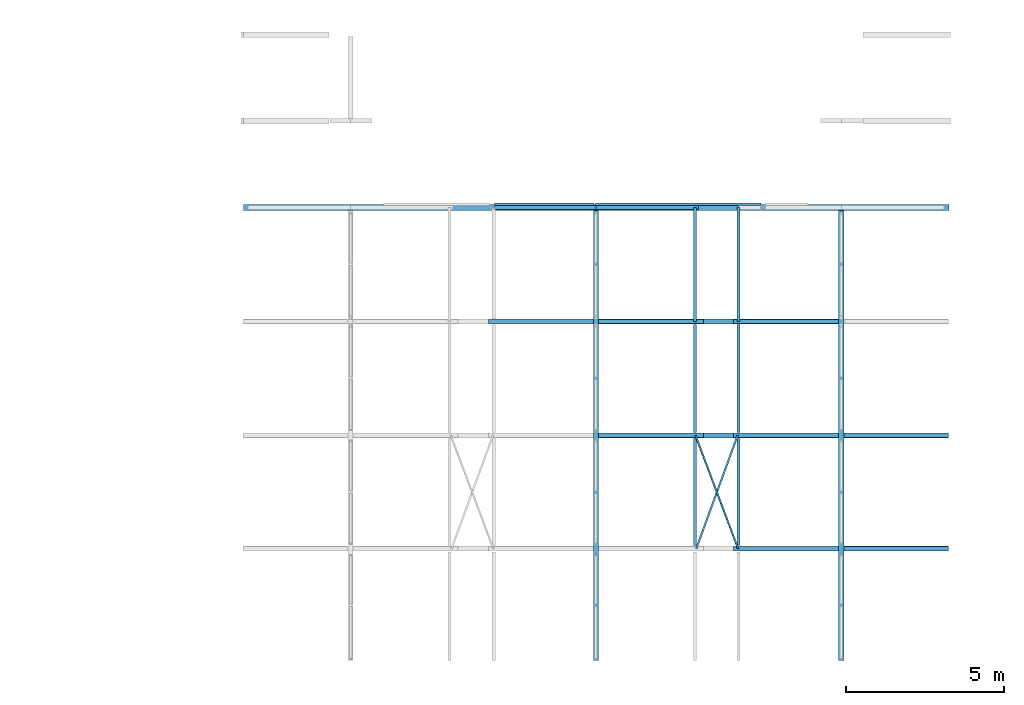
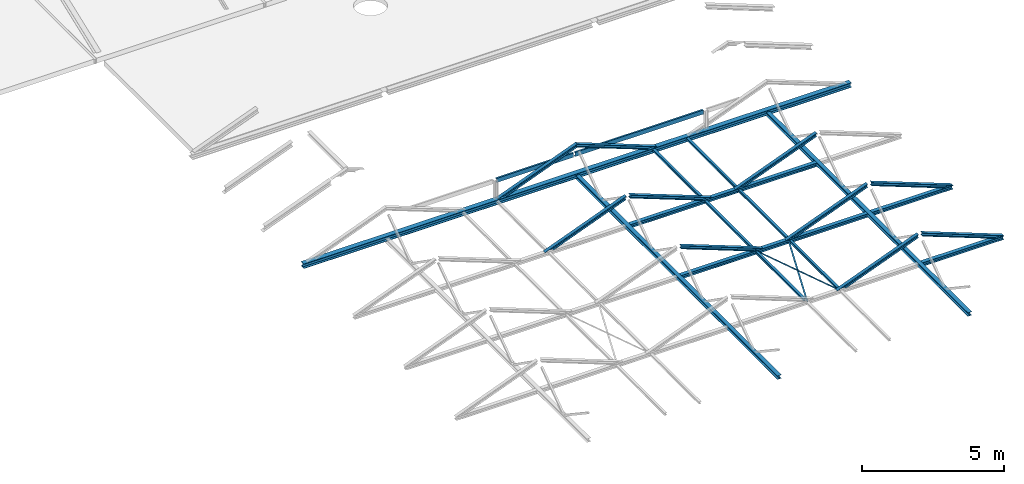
# One storey, part 3 of 10: 27 beams.
"""IFC2X3 building model written with IfcOpenShell, lengths in millimetres."""

from ifc_helpers import new_model, entity, si_unit, converted_unit, derived_unit, direction, frame, frame_2d, origin, place, context, subcontext, project, spatial, polyline, i_section, outline, extrude, clip, halfspace, bounded_halfspace, material, type_object, element, save


model = new_model("IFC2X3")

# Units and contexts
model_context = context("Model", 3, precision=0.01, world=origin(), true_north=direction((6.123031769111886e-17, 1.0)))
body_context = subcontext(model_context, "Body", "Model", "MODEL_VIEW")
ifc_project = project(units=[si_unit("LENGTHUNIT", "METRE", prefix="MILLI"), si_unit("AREAUNIT", "SQUARE_METRE", prefix="MILLI"), si_unit("VOLUMEUNIT", "CUBIC_METRE"), converted_unit("PLANEANGLEUNIT", "DEGREE", entity("IfcPlaneAngleMeasure", 0.017453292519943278), si_unit("PLANEANGLEUNIT", "RADIAN"), dimensions=[0, 0, 0, 0, 0, 0, 0]), si_unit("MASSUNIT", "GRAM", prefix="KILO"), derived_unit("MASSDENSITYUNIT", [(si_unit("MASSUNIT", "GRAM", prefix="KILO"), 1), (si_unit("LENGTHUNIT", "METRE"), -3)]), derived_unit("IONCONCENTRATIONUNIT", [(si_unit("MASSUNIT", "GRAM", prefix="KILO"), 1), (si_unit("LENGTHUNIT", "METRE"), -3)]), derived_unit("MOMENTOFINERTIAUNIT", [(si_unit("LENGTHUNIT", "METRE"), 4)]), si_unit("TIMEUNIT", "SECOND"), si_unit("FREQUENCYUNIT", "HERTZ"), si_unit("THERMODYNAMICTEMPERATUREUNIT", "DEGREE_CELSIUS"), derived_unit("THERMALTRANSMITTANCEUNIT", [(si_unit("MASSUNIT", "GRAM", prefix="KILO"), 1), (si_unit("THERMODYNAMICTEMPERATUREUNIT", "KELVIN"), -1), (si_unit("TIMEUNIT", "SECOND"), -3)]), derived_unit("THERMALCONDUCTANCEUNIT", [(si_unit("MASSUNIT", "GRAM", prefix="KILO"), 1), (si_unit("THERMODYNAMICTEMPERATUREUNIT", "KELVIN"), -1), (si_unit("TIMEUNIT", "SECOND"), -3), (si_unit("LENGTHUNIT", "METRE"), 1)]), derived_unit("VOLUMETRICFLOWRATEUNIT", [(si_unit("LENGTHUNIT", "METRE", prefix="DECI"), 3), (si_unit("TIMEUNIT", "SECOND"), -1)]), derived_unit("MASSFLOWRATEUNIT", [(si_unit("MASSUNIT", "GRAM", prefix="KILO"), 1), (si_unit("TIMEUNIT", "SECOND"), -1)]), derived_unit("ROTATIONALFREQUENCYUNIT", [(si_unit("TIMEUNIT", "SECOND"), -1)]), si_unit("ELECTRICCURRENTUNIT", "AMPERE"), si_unit("ELECTRICVOLTAGEUNIT", "VOLT"), si_unit("POWERUNIT", "WATT"), si_unit("FORCEUNIT", "NEWTON", prefix="KILO"), si_unit("ILLUMINANCEUNIT", "LUX"), si_unit("LUMINOUSFLUXUNIT", "LUMEN"), si_unit("LUMINOUSINTENSITYUNIT", "CANDELA"), si_unit("ENERGYUNIT", "JOULE"), derived_unit("USERDEFINED", [(si_unit("MASSUNIT", "GRAM", prefix="KILO"), -1), (si_unit("LENGTHUNIT", "METRE"), -2), (si_unit("TIMEUNIT", "SECOND"), 3), (si_unit("LUMINOUSFLUXUNIT", "LUMEN"), 1)]), derived_unit("USERDEFINED", [(si_unit("MASSUNIT", "GRAM", prefix="KILO"), 1), (si_unit("TIMEUNIT", "SECOND"), -3), (si_unit("LENGTHUNIT", "METRE"), 3), (si_unit("ELECTRICCURRENTUNIT", "AMPERE"), -2)]), derived_unit("SOUNDPOWERUNIT", [(si_unit("MASSUNIT", "GRAM", prefix="KILO"), 1), (si_unit("TIMEUNIT", "SECOND"), -3), (si_unit("LENGTHUNIT", "METRE"), 2)]), derived_unit("SOUNDPRESSUREUNIT", [(si_unit("MASSUNIT", "GRAM", prefix="KILO"), 1), (si_unit("LENGTHUNIT", "METRE"), -1), (si_unit("TIMEUNIT", "SECOND"), -2)]), derived_unit("LINEARVELOCITYUNIT", [(si_unit("LENGTHUNIT", "METRE"), 1), (si_unit("TIMEUNIT", "SECOND"), -1)]), si_unit("PRESSUREUNIT", "PASCAL"), derived_unit("USERDEFINED", [(si_unit("MASSUNIT", "GRAM", prefix="KILO"), 1), (si_unit("LENGTHUNIT", "METRE"), -2), (si_unit("TIMEUNIT", "SECOND"), -2)]), derived_unit("LINEARFORCEUNIT", [(si_unit("MASSUNIT", "GRAM", prefix="KILO"), 1), (si_unit("TIMEUNIT", "SECOND"), -2)]), derived_unit("PLANARFORCEUNIT", [(si_unit("MASSUNIT", "GRAM", prefix="KILO"), 1), (si_unit("LENGTHUNIT", "METRE"), -1), (si_unit("TIMEUNIT", "SECOND"), -2)]), derived_unit("SPECIFICHEATCAPACITYUNIT", [(si_unit("THERMODYNAMICTEMPERATUREUNIT", "KELVIN"), -1), (si_unit("LENGTHUNIT", "METRE"), 2), (si_unit("TIMEUNIT", "SECOND"), -2)]), derived_unit("HEATFLUXDENSITYUNIT", [(si_unit("MASSUNIT", "GRAM", prefix="KILO"), 1), (si_unit("TIMEUNIT", "SECOND"), -3)]), derived_unit("HEATINGVALUEUNIT", [(si_unit("LENGTHUNIT", "METRE"), 2), (si_unit("TIMEUNIT", "SECOND"), -2)]), derived_unit("VAPORPERMEABILITYUNIT", [(si_unit("LENGTHUNIT", "METRE"), -1), (si_unit("TIMEUNIT", "SECOND"), 1)]), derived_unit("DYNAMICVISCOSITYUNIT", [(si_unit("MASSUNIT", "GRAM", prefix="KILO"), 1), (si_unit("TIMEUNIT", "SECOND"), -1), (si_unit("LENGTHUNIT", "METRE"), -1)]), derived_unit("THERMALEXPANSIONCOEFFICIENTUNIT", [(si_unit("THERMODYNAMICTEMPERATUREUNIT", "KELVIN"), -1)]), derived_unit("MODULUSOFELASTICITYUNIT", [(si_unit("MASSUNIT", "GRAM", prefix="KILO"), 1), (si_unit("LENGTHUNIT", "METRE"), -1), (si_unit("TIMEUNIT", "SECOND"), -2)]), derived_unit("ISOTHERMALMOISTURECAPACITYUNIT", [(si_unit("MASSUNIT", "GRAM", prefix="KILO"), -1), (si_unit("LENGTHUNIT", "METRE"), 3)]), derived_unit("MOISTUREDIFFUSIVITYUNIT", [(si_unit("TIMEUNIT", "SECOND"), -1), (si_unit("LENGTHUNIT", "METRE"), 2)]), derived_unit("MASSPERLENGTHUNIT", [(si_unit("MASSUNIT", "GRAM", prefix="KILO"), 1), (si_unit("LENGTHUNIT", "METRE"), -1)]), derived_unit("THERMALRESISTANCEUNIT", [(si_unit("MASSUNIT", "GRAM", prefix="KILO"), -1), (si_unit("TIMEUNIT", "SECOND"), 3), (si_unit("THERMODYNAMICTEMPERATUREUNIT", "KELVIN"), 1)]), derived_unit("ACCELERATIONUNIT", [(si_unit("LENGTHUNIT", "METRE"), 1), (si_unit("TIMEUNIT", "SECOND"), -2)]), derived_unit("ANGULARVELOCITYUNIT", [(si_unit("TIMEUNIT", "SECOND"), -1), (si_unit("PLANEANGLEUNIT", "RADIAN"), 1)]), derived_unit("LINEARSTIFFNESSUNIT", [(si_unit("MASSUNIT", "GRAM", prefix="KILO"), 1), (si_unit("TIMEUNIT", "SECOND"), -2)]), derived_unit("WARPINGCONSTANTUNIT", [(si_unit("LENGTHUNIT", "METRE"), 6)]), derived_unit("LINEARMOMENTUNIT", [(si_unit("MASSUNIT", "GRAM", prefix="KILO"), 1), (si_unit("LENGTHUNIT", "METRE"), 1), (si_unit("TIMEUNIT", "SECOND"), -2)]), derived_unit("TORQUEUNIT", [(si_unit("MASSUNIT", "GRAM", prefix="KILO"), 1), (si_unit("LENGTHUNIT", "METRE"), 2), (si_unit("TIMEUNIT", "SECOND"), -2)])], contexts=[model_context])

# Site, building, storey
site_placement = place(None, origin())
site = spatial("IfcSite", under=ifc_project, at=site_placement, Name="Default", CompositionType="ELEMENT")
building_placement = place(site_placement, origin())
building = spatial("IfcBuilding", under=site, at=building_placement, CompositionType="ELEMENT")
storey_placement = place(building_placement, frame((0.0, 0.0, 10840.0)))
storey = spatial("IfcBuildingStorey", under=building, at=storey_placement, Name="V3 dakvloer", CompositionType="ELEMENT", Elevation=10839.99999999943)

# Beams
ifc_material_1 = material(Name="Metal - Steel - S235 JRG2 (standaard)")
beam_type_1 = type_object("IfcBeamType", Name="btl_staal - HE(a-b-m):HEA160.", PredefinedType="NOTDEFINED")
beam_1_placement = place(storey_placement, frame((18054.986142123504, 13894.60501307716, -4.289062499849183)))
element("IfcBeam", 1, at=beam_1_placement, inside=storey, type_object=beam_type_1, material=ifc_material_1, Name="btl_staal - HE(a-b-m):HEA160.", ObjectType="btl_staal - HE(a-b-m):HEA160.", context=body_context, shape_type="SweptSolid", body=[
    extrude(i_section(OverallWidth=160.00000000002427, OverallDepth=152.0000000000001, WebThickness=5.999999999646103, FlangeThickness=9.000000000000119, at=frame_2d((2.1671553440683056e-12, 3.254285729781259e-12), x_axis=(0.0, 1.0))), frame((0.0, 0.0, -76.0), z_axis=(1.0, 0.0, 0.0), x_axis=(0.0, 0.0, -1.0)), (0.0, 0.0, 1.0), 7589.093750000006),
])
beam_2_placement = place(storey_placement, frame((18054.986142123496, 10294.605013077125, -4.289062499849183)))
element("IfcBeam", 2, at=beam_2_placement, inside=storey, type_object=beam_type_1, material=ifc_material_1, Name="btl_staal - HE(a-b-m):HEA160.", ObjectType="btl_staal - HE(a-b-m):HEA160.", context=body_context, shape_type="SweptSolid", body=[
    extrude(i_section(OverallWidth=160.00000000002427, OverallDepth=152.0000000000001, WebThickness=5.999999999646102, FlangeThickness=9.000000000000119, at=frame_2d((2.1671553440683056e-12, 1.0800249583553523e-12), x_axis=(0.0, 1.0))), frame((0.0, 0.0, -76.0), z_axis=(1.0, 0.0, 0.0), x_axis=(0.0, 0.0, -1.0)), (0.0, 0.0, 1.0), 7589.093750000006),
])
beam_3_placement = place(storey_placement, frame((25804.079892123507, 10294.605013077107, -4.289062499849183)))
element("IfcBeam", 3, at=beam_3_placement, inside=storey, type_object=beam_type_1, material=ifc_material_1, Name="btl_staal - HE(a-b-m):HEA160.", ObjectType="btl_staal - HE(a-b-m):HEA160.", context=body_context, shape_type="SweptSolid", body=[
    extrude(i_section(OverallWidth=160.00000000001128, OverallDepth=152.0000000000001, WebThickness=5.999999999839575, FlangeThickness=9.000000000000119, at=frame_2d((2.1671553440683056e-12, -1.0871303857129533e-12), x_axis=(0.0, 1.0))), frame((0.0, 0.0, -76.0), z_axis=(1.0, 0.0, 0.0), x_axis=(0.0, 0.0, -1.0)), (0.0, 0.0, 1.0), 3302.9062500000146),
])
beam_4_placement = place(storey_placement, frame((25804.0798921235, 6719.605013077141, -4.289062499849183)))
element("IfcBeam", 4, at=beam_4_placement, inside=storey, type_object=beam_type_1, material=ifc_material_1, Name="btl_staal - HE(a-b-m):HEA160.", ObjectType="btl_staal - HE(a-b-m):HEA160.", context=body_context, shape_type="SweptSolid", body=[
    extrude(i_section(OverallWidth=160.00000000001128, OverallDepth=152.0000000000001, WebThickness=5.999999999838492, FlangeThickness=9.000000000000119, at=frame_2d((2.1671553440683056e-12, 0.0), x_axis=(0.0, 1.0))), frame((0.0, 0.0, -76.0), z_axis=(1.0, 0.0, 0.0), x_axis=(0.0, 0.0, -1.0)), (0.0, 0.0, 1.0), 3302.9062500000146),
])
beam_5_placement = place(storey_placement, frame((17974.986142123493, 17394.605013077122, -4.289062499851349), z_axis=(0.0, 0.0, 1.0), x_axis=(0.0, -1.0, 0.0)))
element("IfcBeam", 5, at=beam_5_placement, inside=storey, type_object=beam_type_1, material=ifc_material_1, Name="btl_staal - HE(a-b-m):HEA160.", ObjectType="btl_staal - HE(a-b-m):HEA160.", context=body_context, shape_type="SweptSolid", body=[
    extrude(i_section(OverallWidth=160.00000000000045, OverallDepth=151.99999999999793, WebThickness=6.000000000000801, FlangeThickness=9.000000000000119, at=frame_2d((-1.0800249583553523e-12, 3.247180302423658e-12), x_axis=(0.0, 1.0))), frame((0.0, 0.0, -76.0), z_axis=(1.0, 0.0, 0.0), x_axis=(0.0, 0.0, -1.0)), (0.0, 0.0, 1.0), 14214.119743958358),
])
beam_6_placement = place(storey_placement, frame((25724.0798921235, 17394.605013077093, -4.289062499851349), z_axis=(0.0, 0.0, 1.0), x_axis=(0.0, -1.0, 0.0)))
element("IfcBeam", 6, at=beam_6_placement, inside=storey, type_object=beam_type_1, material=ifc_material_1, Name="btl_staal - HE(a-b-m):HEA160.", ObjectType="btl_staal - HE(a-b-m):HEA160.", context=body_context, shape_type="SweptSolid", body=[
    extrude(i_section(OverallWidth=159.99999999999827, OverallDepth=151.99999999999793, WebThickness=5.999999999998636, FlangeThickness=9.000000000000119, at=frame_2d((-1.0800249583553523e-12, 2.1671553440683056e-12), x_axis=(0.0, 1.0))), frame((0.0, 0.0, -76.0), z_axis=(1.0, 0.0, 0.0), x_axis=(0.0, 0.0, -1.0)), (0.0, 0.0, 1.0), 14214.119743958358),
])
ifc_material_2 = material(Name="Metal - Steel - S355 JR (standaard-geintegreerde liggers)")
beam_type_2 = type_object("IfcBeamType", Name="btl_staal - HE(a-b-m):HEB200 (S355)", PredefinedType="NOTDEFINED")
beam_7_placement = place(storey_placement, frame((6843.000781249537, 17494.605013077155, 57.95312500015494)))
element("IfcBeam", 7, at=beam_7_placement, inside=storey, type_object=beam_type_2, material=ifc_material_2, Name="btl_staal - HE(a-b-m):HEB200 (S355)", ObjectType="btl_staal - HE(a-b-m):HEB200 (S355)", context=body_context, shape_type="SweptSolid", body=[
    extrude(i_section(OverallWidth=200.00000000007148, OverallDepth=200.0, WebThickness=8.999999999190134, FlangeThickness=15.000000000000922, at=frame_2d((1.0871303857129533e-12, 1.0871303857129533e-12), x_axis=(0.0, 1.0))), frame((0.0, 0.0, -100.0), z_axis=(1.0, 0.0, 0.0), x_axis=(0.0, 0.0, -1.0)), (0.0, 0.0, 1.0), 22278.985360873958),
])
beam_type_3 = type_object("IfcBeamType", Name="btl_staal - UNP:UNP180.", PredefinedType="NOTDEFINED")
beam_8_placement = place(storey_placement, frame((17962.683976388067, 17583.90501307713, 860.0)))
element("IfcBeam", 8, at=beam_8_placement, inside=storey, type_object=beam_type_3, material=ifc_material_1, Name="btl_staal - UNP:UNP180.", ObjectType="btl_staal - UNP:UNP180.", context=body_context, shape_type="SweptSolid", body=[
    extrude(outline(polyline([(-90.0, -37.0), (90.0, -37.0), (90.0, 33.0), (79.0, 33.0), (69.18016469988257, -29.0), (-69.18016469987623, -29.0), (-79.0, 33.0), (-90.0, 33.0), (-90.0, -37.0)])), frame((0.0, 17.70000000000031, -90.0), z_axis=(1.0, 0.0, 0.0), x_axis=(0.0, 0.0, -1.0)), (0.0, 0.0, 1.0), 5220.802630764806),
])
beam_9_placement = place(storey_placement, frame((14696.977101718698, 17583.90501307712, 860.0)))
element("IfcBeam", 9, at=beam_9_placement, inside=storey, type_object=beam_type_3, material=ifc_material_1, Name="btl_staal - UNP:UNP180.", ObjectType="btl_staal - UNP:UNP180.", context=body_context, shape_type="SweptSolid", body=[
    extrude(outline(polyline([(-90.0, -37.0), (90.0, -37.0), (90.0, 33.0), (79.0, 33.0), (69.18016469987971, -29.0), (-69.18016469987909, -29.0), (-79.0, 33.0), (-90.0, 33.0), (-90.0, -37.0)])), frame((69.38600711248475, 17.700000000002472, -90.0), z_axis=(1.0, 0.0, 0.0), x_axis=(0.0, 0.0, -1.0)), (0.0, 0.0, 1.0), 3142.123033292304),
])
beam_type_4 = type_object("IfcBeamType", Name="btl_staal - HE(a-b-m):HEA140", PredefinedType="NOTDEFINED")
beam_10_placement = place(storey_placement, frame((14589.859548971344, 17494.60501307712, 1.7669188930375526), z_axis=(-0.3581842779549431, 0.0, 0.9336509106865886), x_axis=(0.9336509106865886, 0.0, 0.3581842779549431)))
element("IfcBeam", 10, at=beam_10_placement, inside=storey, type_object=beam_type_4, material=ifc_material_1, Name="btl_staal - HE(a-b-m):HEA140", ObjectType="btl_staal - HE(a-b-m):HEA140", context=body_context, shape_type="SweptSolid", body=[
    clip(clip(clip(extrude(i_section(OverallWidth=140.00000000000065, OverallDepth=133.00000000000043, WebThickness=5.500000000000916, FlangeThickness=8.500000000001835, at=frame_2d((0.0, 5.4143356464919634e-12), x_axis=(0.0, 1.0))), frame((184.9177250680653, 0.0, -66.50000000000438), z_axis=(1.0, 0.0, 0.0), x_axis=(0.0, 0.0, -1.0)), (0.0, 0.0, 1.0), 3440.767753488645), halfspace(frame((3625.685478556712, 0.0, 0.0), z_axis=(0.9336508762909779, 0.0, -0.3581843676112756), x_axis=(0.0, -1.0, 0.0)), False)), bounded_halfspace(frame((184.91772506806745, 3625.6854785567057, -10.76249764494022), z_axis=(-0.3581842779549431, 0.0, -0.9336509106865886), x_axis=(0.0, -1.0, 0.0)), False, frame((184.9177250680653, 0.0, -66.50000000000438), z_axis=(1.0, 0.0, 0.0), x_axis=(0.0, 0.0, -1.0)), polyline([(-55.73750235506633, -2.749999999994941), (-55.73750235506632, 2.7500000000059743), (58.0, 2.7500000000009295), (58.0, 70.0), (66.4999999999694, 70.0), (66.49999999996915, -70.0), (58.0, -70.0), (58.0, -2.749999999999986), (-55.73750235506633, -2.749999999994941)]))), bounded_halfspace(frame((189.04663171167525, 3625.6854785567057, 0.0), z_axis=(-0.9336509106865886, 0.0, 0.3581842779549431), x_axis=(0.0, -1.0, 0.0)), False, frame((184.9177250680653, 0.0, -66.50000000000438), z_axis=(1.0, 0.0, 0.0), x_axis=(0.0, 0.0, -1.0)), polyline([(-55.73750235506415, 2.7500000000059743), (-55.73750235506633, -2.749999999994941), (-58.0, -2.749999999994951), (-58.0, -70.0), (-66.5000000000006, -70.0), (-66.50000000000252, 70.0), (-58.0, 70.0), (-58.0, 2.750000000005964), (-55.73750235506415, 2.7500000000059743)]))),
])
beam_11_placement = place(storey_placement, frame((17974.984097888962, 17494.605013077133, 1300.4304541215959), z_axis=(0.3581844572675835, 0.0, 0.9336508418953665), x_axis=(0.9336508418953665, 0.0, -0.3581844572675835)))
element("IfcBeam", 11, at=beam_11_placement, inside=storey, type_object=beam_type_4, material=ifc_material_1, Name="btl_staal - HE(a-b-m):HEA140", ObjectType="btl_staal - HE(a-b-m):HEA140", context=body_context, shape_type="SweptSolid", body=[
    clip(clip(extrude(i_section(OverallWidth=140.00000000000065, OverallDepth=132.99999999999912, WebThickness=5.500000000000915, FlangeThickness=8.500000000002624, at=frame_2d((2.4158453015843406e-12, 1.0800249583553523e-12), x_axis=(0.0, 1.0))), frame((0.0, 0.0, -66.50000000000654), z_axis=(1.0, 0.0, 0.0), x_axis=(0.0, 0.0, -1.0)), (0.0, 0.0, 1.0), 3468.8197768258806), halfspace(frame((3122.139290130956, 3685.680729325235, -133.0), z_axis=(0.35818445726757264, 0.0, -0.9336508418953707), x_axis=(0.0, -1.0, 0.0)), False)), halfspace(frame((0.0, 0.0, 0.0), z_axis=(-0.933650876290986, 0.0, -0.35818436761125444), x_axis=(0.0, 1.0, 0.0)), False)),
])
beam_12_placement = place(storey_placement, frame((14585.411775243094, 13894.605013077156, 0.06058239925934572), z_axis=(-0.358184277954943, 0.0, 0.9336509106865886), x_axis=(0.9336509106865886, 0.0, 0.358184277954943)))
element("IfcBeam", 12, at=beam_12_placement, inside=storey, type_object=beam_type_4, material=ifc_material_1, Name="btl_staal - HE(a-b-m):HEA140", ObjectType="btl_staal - HE(a-b-m):HEA140", context=body_context, shape_type="SweptSolid", body=[
    clip(clip(extrude(outline(polyline([(-70.0, -58.0), (-70.0, -66.50000000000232), (70.0, -66.4999999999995), (70.0, -58.0), (2.7500000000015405, -58.0), (2.7500000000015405, 58.0), (70.0, 58.0), (70.0, 66.4999999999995), (-70.0, 66.4999999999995), (-70.0, 58.0), (-2.749999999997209, 58.0), (-2.7499999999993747, -58.0), (-70.0, -58.0)])), frame((0.0, 0.0, -66.50000000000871), z_axis=(-1.0, 0.0, 0.0), x_axis=(0.0, 1.0, 0.0)), (0.0, 0.0, -1.0), 3544.766388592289), halfspace(frame((0.0, 3565.0, -4.658748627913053), z_axis=(-0.358184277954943, 0.0, -0.9336509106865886), x_axis=(0.0, -1.0, 0.0)), False)), halfspace(frame((3565.001969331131, -3565.0, 52.74650381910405), z_axis=(0.9336509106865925, 0.0, -0.3581842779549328), x_axis=(0.0, 1.0, 0.0)), False)),
])
beam_13_placement = place(storey_placement, frame((18047.86281122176, 13894.60501307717, 1272.4713700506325), z_axis=(0.3581844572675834, 0.0, 0.9336508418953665), x_axis=(0.9336508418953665, 0.0, -0.3581844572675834)))
element("IfcBeam", 13, at=beam_13_placement, inside=storey, type_object=beam_type_4, material=ifc_material_1, Name="btl_staal - HE(a-b-m):HEA140", ObjectType="btl_staal - HE(a-b-m):HEA140", context=body_context, shape_type="SweptSolid", body=[
    clip(clip(extrude(i_section(OverallWidth=140.00000000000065, OverallDepth=132.99999999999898, WebThickness=5.500000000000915, FlangeThickness=8.500000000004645, at=frame_2d((-1.3997691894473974e-12, 1.0800249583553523e-12), x_axis=(0.0, 1.0))), frame((7.629544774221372, 0.0, -66.50000000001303), z_axis=(1.0, 0.0, 0.0), x_axis=(0.0, 0.0, -1.0)), (0.0, 0.0, 1.0), 3556.9037749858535), halfspace(frame((3217.8528330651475, 3612.386801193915, -133.0), z_axis=(0.3581844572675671, 0.0, -0.9336508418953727), x_axis=(0.0, -1.0, 0.0)), False)), halfspace(frame((0.0, 3612.386801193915, 19.887325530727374), z_axis=(-0.9336508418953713, 0.0, -0.358184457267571), x_axis=(0.0, -1.0, 0.0)), False)),
])
beam_14_placement = place(storey_placement, frame((22328.136974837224, 13894.605013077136, -2.415790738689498), z_axis=(-0.3581840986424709, 0.0, 0.9336509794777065), x_axis=(0.9336509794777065, 0.0, 0.3581840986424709)))
element("IfcBeam", 14, at=beam_14_placement, inside=storey, type_object=beam_type_4, material=ifc_material_1, Name="btl_staal - HE(a-b-m):HEA140", ObjectType="btl_staal - HE(a-b-m):HEA140", context=body_context, shape_type="SweptSolid", body=[
    clip(clip(extrude(outline(polyline([(-70.0, -58.0), (-70.0, -66.50000000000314), (70.0, -66.50000000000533), (70.0, -58.0), (2.7499999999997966, -58.0), (2.7500000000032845, 58.0), (70.0, 58.0), (70.0, 66.49999999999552), (-70.0, 66.49999999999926), (-70.0, 58.0), (-2.7499999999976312, 58.0), (-2.7500000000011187, -58.0), (-70.0, -58.0)])), frame((0.0, 0.0, -66.50000000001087), z_axis=(-1.0, 0.0, 0.0), x_axis=(0.0, 1.0, 0.0)), (0.0, 0.0, -1.0), 3551.587252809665), halfspace(frame((341.4509716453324, -3632.181574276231, -133.0), z_axis=(-0.3581840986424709, 0.0, -0.9336509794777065), x_axis=(0.0, 1.0, 0.0)), False)), halfspace(frame((3551.5872528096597, -3632.1815742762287, 0.0), z_axis=(0.9336509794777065, 0.0, -0.3581840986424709), x_axis=(0.0, 1.0, 0.0)), False)),
])
beam_15_placement = place(storey_placement, frame((18047.862811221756, 10294.605013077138, 1272.4713700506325), z_axis=(0.3581844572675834, 0.0, 0.9336508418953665), x_axis=(0.9336508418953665, 0.0, -0.3581844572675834)))
element("IfcBeam", 15, at=beam_15_placement, inside=storey, type_object=beam_type_4, material=ifc_material_1, Name="btl_staal - HE(a-b-m):HEA140", ObjectType="btl_staal - HE(a-b-m):HEA140", context=body_context, shape_type="SweptSolid", body=[
    clip(clip(extrude(i_section(OverallWidth=140.00000000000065, OverallDepth=132.99999999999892, WebThickness=5.500000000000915, FlangeThickness=8.500000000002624, at=frame_2d((0.0, 1.0800249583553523e-12), x_axis=(0.0, 1.0))), frame((7.629544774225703, 0.0, -66.50000000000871), z_axis=(1.0, 0.0, 0.0), x_axis=(0.0, 0.0, -1.0)), (0.0, 0.0, 1.0), 3556.9037749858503), halfspace(frame((3217.8528330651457, 3612.386801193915, -133.0), z_axis=(0.35818445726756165, 0.0, -0.9336508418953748), x_axis=(0.0, -1.0, 0.0)), False)), halfspace(frame((0.0, 3612.386801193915, 19.887325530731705), z_axis=(-0.9336508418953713, 0.0, -0.3581844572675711), x_axis=(0.0, -1.0, 0.0)), False)),
])
beam_16_placement = place(storey_placement, frame((22328.136974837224, 10294.605013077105, -2.415790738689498), z_axis=(-0.3581840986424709, 0.0, 0.9336509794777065), x_axis=(0.9336509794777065, 0.0, 0.3581840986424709)))
element("IfcBeam", 16, at=beam_16_placement, inside=storey, type_object=beam_type_4, material=ifc_material_1, Name="btl_staal - HE(a-b-m):HEA140", ObjectType="btl_staal - HE(a-b-m):HEA140", context=body_context, shape_type="SweptSolid", body=[
    clip(clip(extrude(outline(polyline([(-70.0, -58.0), (-70.0, -66.49999999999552), (70.0, -66.50000000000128), (70.0, -58.0), (2.7499999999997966, -58.0), (2.7500000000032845, 58.0), (70.0, 58.0), (70.0, 66.50000000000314), (-70.0, 66.50000000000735), (-70.0, 58.0), (-2.7499999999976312, 58.0), (-2.7500000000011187, -58.0), (-70.0, -58.0)])), frame((0.0, 0.0, -66.50000000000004), z_axis=(-1.0, 0.0, 0.0), x_axis=(0.0, 1.0, 0.0)), (0.0, 0.0, -1.0), 3551.5872528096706), halfspace(frame((341.4509716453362, -3632.181574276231, -133.0), z_axis=(-0.3581840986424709, 0.0, -0.9336509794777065), x_axis=(0.0, 1.0, 0.0)), False)), halfspace(frame((3551.587252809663, -3632.1815742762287, 0.0), z_axis=(0.9336509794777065, 0.0, -0.3581840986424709), x_axis=(0.0, 1.0, 0.0)), False)),
])
beam_17_placement = place(storey_placement, frame((25728.832954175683, 10294.605013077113, 1298.573947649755), z_axis=(0.3581848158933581, 0.0, 0.9336507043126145), x_axis=(0.9336507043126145, 0.0, -0.3581848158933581)))
element("IfcBeam", 17, at=beam_17_placement, inside=storey, type_object=beam_type_4, material=ifc_material_1, Name="btl_staal - HE(a-b-m):HEA140", ObjectType="btl_staal - HE(a-b-m):HEA140", context=body_context, shape_type="SweptSolid", body=[
    clip(clip(clip(extrude(outline(polyline([(-70.0, -58.0), (-70.0, -66.49999999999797), (70.0, -66.50000000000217), (70.0, -58.0), (2.7499999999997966, -58.0), (2.7500000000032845, 58.0), (70.0, 58.0), (70.0, 66.49999999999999), (-70.0, 66.50000000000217), (-70.0, 58.0), (-2.7499999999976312, 58.0), (-2.7500000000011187, -58.0), (-70.0, -58.0)])), frame((80.59431391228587, 0.0, -66.50000000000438), z_axis=(-1.0, 0.0, 0.0), x_axis=(0.0, 1.0, 0.0)), (0.0, 0.0, -1.0), 3540.086536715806), halfspace(frame((80.59431391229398, 3643.731496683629, 0.0), z_axis=(-0.9336507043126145, 0.0, -0.3581848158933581), x_axis=(0.0, -1.0, 0.0)), False)), bounded_halfspace(frame((3287.1606042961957, 3643.731496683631, -134.3671607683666), z_axis=(0.35818481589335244, 0.0, -0.9336507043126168), x_axis=(0.0, -1.0, 0.0)), False, frame((80.59431391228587, 0.0, -66.50000000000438), z_axis=(-1.0, 0.0, 0.0), x_axis=(0.0, 1.0, 0.0)), polyline([(70.0, -60.08421063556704), (-70.0, -60.08421063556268), (-70.0, -58.0), (-2.749999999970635, -58.0), (-2.7499999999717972, 58.0), (-70.0, 58.0), (-70.0, 66.50000000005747), (70.0, 66.50000000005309), (70.0, 58.0), (2.750000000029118, 58.0), (2.7500000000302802, -58.0), (70.0, -58.0), (70.0, -60.08421063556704)]))), bounded_halfspace(frame((3620.6808506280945, 3643.731496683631, -6.415789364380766), z_axis=(0.9336507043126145, 0.0, 0.3581848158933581), x_axis=(0.0, -1.0, 0.0)), False, frame((80.59431391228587, 0.0, -66.50000000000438), z_axis=(-1.0, 0.0, 0.0), x_axis=(0.0, 1.0, 0.0)), polyline([(-70.0, -60.08421063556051), (70.0, -60.08421063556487), (70.0, -66.49999999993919), (-70.0, -66.49999999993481), (-70.0, -60.08421063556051)]))),
])
beam_18_placement = place(storey_placement, frame((22328.136974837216, 6719.60501307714, -2.415790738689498), z_axis=(-0.3581840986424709, 0.0, 0.9336509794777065), x_axis=(0.9336509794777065, 0.0, 0.3581840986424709)))
element("IfcBeam", 18, at=beam_18_placement, inside=storey, type_object=beam_type_4, material=ifc_material_1, Name="btl_staal - HE(a-b-m):HEA140", ObjectType="btl_staal - HE(a-b-m):HEA140", context=body_context, shape_type="SweptSolid", body=[
    clip(clip(extrude(outline(polyline([(-70.0, -58.0), (-70.0, -66.49999999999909), (70.0, -66.50000000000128), (70.0, -58.0), (2.749999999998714, -58.0), (2.7500000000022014, 58.0), (70.0, 58.0), (70.0, 66.49999999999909), (-70.0, 66.50000000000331), (-70.0, 58.0), (-2.749999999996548, 58.0), (-2.7500000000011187, -58.0), (-70.0, -58.0)])), frame((0.0, 0.0, -66.50000000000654), z_axis=(-1.0, 0.0, 0.0), x_axis=(0.0, 1.0, 0.0)), (0.0, 0.0, -1.0), 3551.587252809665), halfspace(frame((341.4509716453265, -3632.1815742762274, -133.0), z_axis=(-0.3581840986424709, 0.0, -0.9336509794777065), x_axis=(0.0, 1.0, 0.0)), False)), halfspace(frame((3551.5872528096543, -3632.1815742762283, 0.0), z_axis=(0.9336509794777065, 0.0, -0.3581840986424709), x_axis=(0.0, 1.0, 0.0)), False)),
])
beam_19_placement = place(storey_placement, frame((25728.83295417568, 6719.605013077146, 1298.573947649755), z_axis=(0.3581848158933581, 0.0, 0.9336507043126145), x_axis=(0.9336507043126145, 0.0, -0.3581848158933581)))
element("IfcBeam", 19, at=beam_19_placement, inside=storey, type_object=beam_type_4, material=ifc_material_1, Name="btl_staal - HE(a-b-m):HEA140", ObjectType="btl_staal - HE(a-b-m):HEA140", context=body_context, shape_type="SweptSolid", body=[
    clip(clip(clip(extrude(outline(polyline([(-70.0, -58.0), (-70.0, -66.50000000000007), (70.0, -66.50000000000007), (70.0, -58.0), (2.7500000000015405, -58.0), (2.7500000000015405, 58.0), (70.0, 58.0), (70.0, 66.49999999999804), (-70.0, 66.50000000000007), (-70.0, 58.0), (-2.749999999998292, 58.0), (-2.749999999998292, -58.0), (-70.0, -58.0)])), frame((80.59431391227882, 0.0, -66.5000000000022), z_axis=(-1.0, 0.0, 0.0), x_axis=(0.0, 1.0, 0.0)), (0.0, 0.0, -1.0), 3540.0865367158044), halfspace(frame((80.59431391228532, 3643.7314966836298, 0.0), z_axis=(-0.9336507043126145, 0.0, -0.3581848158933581), x_axis=(0.0, -1.0, 0.0)), False)), bounded_halfspace(frame((3287.1606042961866, 3643.731496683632, -134.36716076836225), z_axis=(0.35818481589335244, 0.0, -0.9336507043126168), x_axis=(0.0, -1.0, 0.0)), False, frame((80.59431391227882, 0.0, -66.5000000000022), z_axis=(-1.0, 0.0, 0.0), x_axis=(0.0, 1.0, 0.0)), polyline([(70.0, -60.08421063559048), (-70.0, -60.08421063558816), (-70.0, -58.0), (-2.7500000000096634, -58.0), (-2.75000000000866, 58.0), (-70.0, 58.0), (-70.0, 66.50000000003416), (70.0, 66.50000000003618), (70.0, 58.0), (2.749999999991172, 58.0), (2.7499999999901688, -58.0), (70.0, -58.0), (70.0, -60.08421063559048)]))), bounded_halfspace(frame((3620.6808506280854, 3643.731496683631, -6.415789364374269), z_axis=(0.9336507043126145, 0.0, 0.3581848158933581), x_axis=(0.0, -1.0, 0.0)), False, frame((80.59431391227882, 0.0, -66.5000000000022), z_axis=(-1.0, 0.0, 0.0), x_axis=(0.0, 1.0, 0.0)), polyline([(-70.0, -60.08421063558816), (70.0, -60.08421063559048), (70.0, -66.4999999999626), (-70.0, -66.4999999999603), (-70.0, -60.08421063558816)]))),
])
beam_type_5 = type_object("IfcBeamType", Name="btl_staal - HE(a-b-m):HEA100", PredefinedType="NOTDEFINED")
beam_20_placement = place(storey_placement, frame((21103.123745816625, 17490.10501307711, -4.046874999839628), z_axis=(0.0, 0.0, 1.0), x_axis=(0.0, -1.0, 0.0)))
element("IfcBeam", 20, at=beam_20_placement, inside=storey, type_object=beam_type_5, material=ifc_material_1, Name="btl_staal - HE(a-b-m):HEA100", ObjectType="btl_staal - HE(a-b-m):HEA100", context=body_context, shape_type="SweptSolid", body=[
    extrude(i_section(OverallWidth=99.99999999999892, OverallDepth=95.99999999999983, WebThickness=4.999999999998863, FlangeThickness=8.000000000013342, at=frame_2d((-2.1671553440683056e-12, 2.1671553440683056e-12), x_axis=(0.0, 1.0))), frame((0.0, 0.0, -48.0), z_axis=(1.0, 0.0, 0.0), x_axis=(0.0, 0.0, -1.0)), (0.0, 0.0, 1.0), 3595.4999999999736),
])
beam_21_placement = place(storey_placement, frame((21103.12374581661, 10194.60501307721, -4.046874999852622), z_axis=(0.0, 0.0, 1.0), x_axis=(0.0, -1.0, 0.0)))
element("IfcBeam", 21, at=beam_21_placement, inside=storey, type_object=beam_type_5, material=ifc_material_1, Name="btl_staal - HE(a-b-m):HEA100", ObjectType="btl_staal - HE(a-b-m):HEA100", context=body_context, shape_type="SweptSolid", body=[
    extrude(i_section(OverallWidth=99.99999999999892, OverallDepth=95.99999999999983, WebThickness=4.999999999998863, FlangeThickness=8.000000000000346, at=frame_2d((-2.1671553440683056e-12, 2.1671553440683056e-12), x_axis=(0.0, 1.0))), frame((0.0, 0.0, -48.0), z_axis=(1.0, 0.0, 0.0), x_axis=(0.0, 0.0, -1.0)), (0.0, 0.0, 1.0), 3375.0000000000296),
])
beam_22_placement = place(storey_placement, frame((21103.12374581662, 13794.605013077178, -4.046874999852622), z_axis=(0.0, 0.0, 1.0), x_axis=(0.0, -1.0, 0.0)))
element("IfcBeam", 22, at=beam_22_placement, inside=storey, type_object=beam_type_5, material=ifc_material_1, Name="btl_staal - HE(a-b-m):HEA100", ObjectType="btl_staal - HE(a-b-m):HEA100", context=body_context, shape_type="SweptSolid", body=[
    extrude(i_section(OverallWidth=99.99999999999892, OverallDepth=95.99999999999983, WebThickness=4.999999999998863, FlangeThickness=8.000000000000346, at=frame_2d((-2.1671553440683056e-12, 2.1671553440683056e-12), x_axis=(0.0, 1.0))), frame((0.0, 0.0, -48.0), z_axis=(1.0, 0.0, 0.0), x_axis=(0.0, 0.0, -1.0)), (0.0, 0.0, 1.0), 3399.99999999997),
])
beam_23_placement = place(storey_placement, frame((22474.986142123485, 17490.105013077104, -4.046874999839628), z_axis=(0.0, 0.0, 1.0), x_axis=(0.0, -1.0, 0.0)))
element("IfcBeam", 23, at=beam_23_placement, inside=storey, type_object=beam_type_5, material=ifc_material_1, Name="btl_staal - HE(a-b-m):HEA100", ObjectType="btl_staal - HE(a-b-m):HEA100", context=body_context, shape_type="SweptSolid", body=[
    extrude(i_section(OverallWidth=99.99999999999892, OverallDepth=95.99999999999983, WebThickness=4.999999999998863, FlangeThickness=8.000000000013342, at=frame_2d((-2.1671553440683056e-12, -2.1671553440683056e-12), x_axis=(0.0, 1.0))), frame((0.0, 0.0, -48.0), z_axis=(1.0, 0.0, 0.0), x_axis=(0.0, 0.0, -1.0)), (0.0, 0.0, 1.0), 3595.4999999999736),
])
beam_24_placement = place(storey_placement, frame((22474.986142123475, 10194.605013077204, -4.046874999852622), z_axis=(0.0, 0.0, 1.0), x_axis=(0.0, -1.0, 0.0)))
element("IfcBeam", 24, at=beam_24_placement, inside=storey, type_object=beam_type_5, material=ifc_material_1, Name="btl_staal - HE(a-b-m):HEA100", ObjectType="btl_staal - HE(a-b-m):HEA100", context=body_context, shape_type="SweptSolid", body=[
    extrude(i_section(OverallWidth=99.99999999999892, OverallDepth=95.99999999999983, WebThickness=4.999999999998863, FlangeThickness=8.000000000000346, at=frame_2d((-2.1671553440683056e-12, 2.1671553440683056e-12), x_axis=(0.0, 1.0))), frame((0.0, 0.0, -48.0), z_axis=(1.0, 0.0, 0.0), x_axis=(0.0, 0.0, -1.0)), (0.0, 0.0, 1.0), 3375.0000000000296),
])
beam_25_placement = place(storey_placement, frame((22474.986142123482, 13794.605013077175, -4.046874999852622), z_axis=(0.0, 0.0, 1.0), x_axis=(0.0, -1.0, 0.0)))
element("IfcBeam", 25, at=beam_25_placement, inside=storey, type_object=beam_type_5, material=ifc_material_1, Name="btl_staal - HE(a-b-m):HEA100", ObjectType="btl_staal - HE(a-b-m):HEA100", context=body_context, shape_type="SweptSolid", body=[
    extrude(i_section(OverallWidth=99.99999999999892, OverallDepth=95.99999999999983, WebThickness=4.999999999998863, FlangeThickness=8.000000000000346, at=frame_2d((-2.1671553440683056e-12, 2.1671553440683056e-12), x_axis=(0.0, 1.0))), frame((0.0, 0.0, -48.0), z_axis=(1.0, 0.0, 0.0), x_axis=(0.0, 0.0, -1.0)), (0.0, 0.0, 1.0), 3399.99999999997),
])
beam_type_6 = type_object("IfcBeamType", Name="btl_staal - Hoeklijn 2.0:L 60X60X8", PredefinedType="NOTDEFINED")
beam_26_placement = place(storey_placement, frame((21118.06082793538, 10294.605013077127, 0.0), z_axis=(0.0, 0.0, 1.0), x_axis=(0.352131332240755, -0.9359505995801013, 0.0)))
element("IfcBeam", 26, at=beam_26_placement, inside=storey, type_object=beam_type_6, material=ifc_material_1, Name="btl_staal - Hoeklijn 2.0:L 60X60X8", ObjectType="btl_staal - Hoeklijn 2.0:L 60X60X8", context=body_context, shape_type="SweptSolid", body=[
    extrude(outline(polyline([(-37.333333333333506, -22.666666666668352), (22.666666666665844, -22.666666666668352), (22.666666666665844, 37.333333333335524), (14.666666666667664, 37.333333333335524), (14.666666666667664, -14.666666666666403), (-37.333333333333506, -14.666666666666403), (-37.333333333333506, -22.666666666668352)])), frame((0.0, -5.553333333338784, -37.333333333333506), z_axis=(1.0, 0.0, 0.0), x_axis=(0.0, 0.0, -1.0)), (0.0, 0.0, 1.0), 3819.646038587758),
])
beam_27_placement = place(storey_placement, frame((21146.571693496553, 6719.605013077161, -120.0), z_axis=(0.0, 0.0, 1.0), x_axis=(0.3429396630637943, 0.9393574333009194, 0.0)))
element("IfcBeam", 27, at=beam_27_placement, inside=storey, type_object=beam_type_6, material=ifc_material_1, Name="btl_staal - Hoeklijn 2.0:L 60X60X8", ObjectType="btl_staal - Hoeklijn 2.0:L 60X60X8", context=body_context, shape_type="SweptSolid", body=[
    extrude(outline(polyline([(-22.666666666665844, -22.666666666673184), (37.333333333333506, -22.666666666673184), (37.333333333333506, -14.666666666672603), (-14.666666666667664, -14.666666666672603), (-14.666666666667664, 37.33333333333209), (-22.666666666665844, 37.33333333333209), (-22.666666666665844, -22.666666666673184)])), frame((0.0, -5.5533333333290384, 37.333333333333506), z_axis=(1.0, 0.0, 0.0), x_axis=(0.0, 0.0, -1.0)), (0.0, 0.0, 1.0), 3805.793059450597),
])

save(model, "model.ifc")
